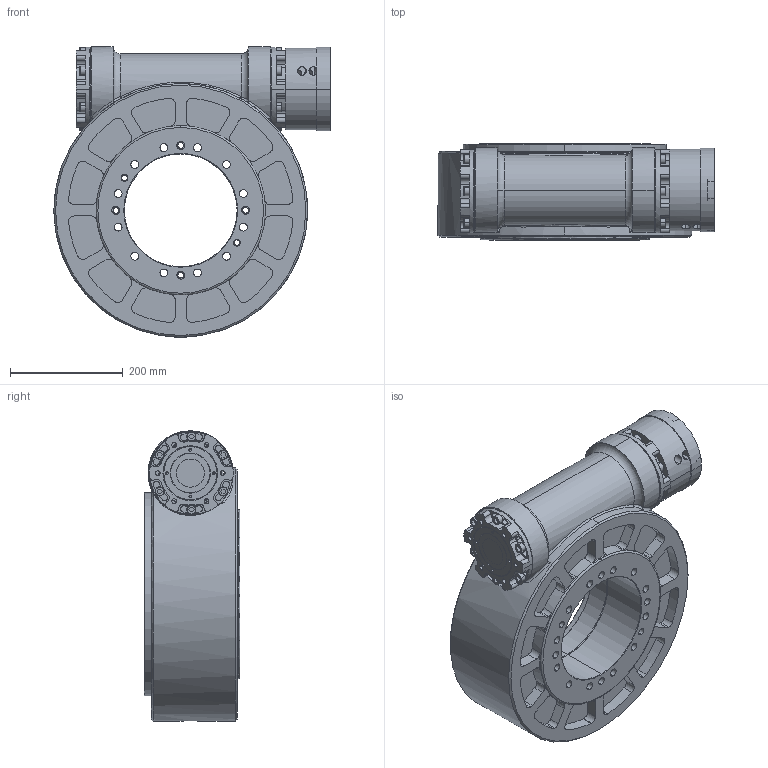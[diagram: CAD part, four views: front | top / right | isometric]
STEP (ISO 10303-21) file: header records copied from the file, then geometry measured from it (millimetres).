
FILE_DESCRIPTION (( 'STEP AP203' ), '1' );
FILE_NAME ('GH215-40R-32-110-130-M8.STEP', '2023-12-25T08:41:52', ( '微软用户' ), ( '微软中国' ), 'SwSTEP 2.0', 'SolidWorks 2016', '' );
FILE_SCHEMA (( 'CONFIG_CONTROL_DESIGN' ));
Length unit declared in the file: millimetre
Products named in the file (1): GH215-40R-32-110-130-M8
Bounding box: 490 x 170 x 515 mm (x, y, z)
Surface area: 1278763.9 mm2 (no closed solid volume)
Topology: 0 solids, 51 shells, 844 faces, 2567 edges, 1755 vertices
Faces by surface type: cylinder 510, plane 235, cone 38, bspline 32, torus 29
Entity records: 31826 total; most frequent: CARTESIAN_POINT 7819, DIRECTION 5466, ORIENTED_EDGE 4487, EDGE_CURVE 2567, AXIS2_PLACEMENT_3D 2182, VERTEX_POINT 1755, CIRCLE 1369, VECTOR 1102
